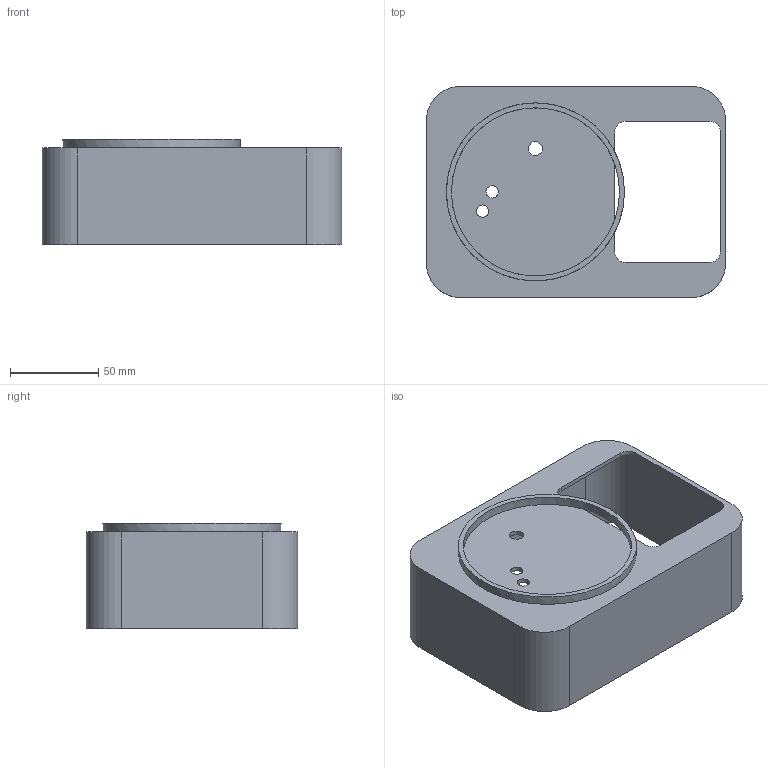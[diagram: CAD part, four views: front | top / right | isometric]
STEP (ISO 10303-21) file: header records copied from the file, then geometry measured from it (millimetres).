
FILE_DESCRIPTION(('Open CASCADE Model'),'2;1');
FILE_NAME('Open CASCADE Shape Model','2026-10-21T10:33:18',('Author'),( 'Open CASCADE'),'Open CASCADE STEP processor 7.9','Open CASCADE 7.9' ,'Unknown');
FILE_SCHEMA(('AUTOMOTIVE_DESIGN { 1 0 10303 214 1 1 1 1 }'));
Length unit declared in the file: millimetre
Products named in the file (1): Open CASCADE STEP translator 7.9 1
Bounding box: 170 x 120 x 60 mm (x, y, z)
Volume: 112807.4 mm3; surface area: 92312.3 mm2
Topology: 1 solids, 1 shells, 35 faces, 95 edges, 62 vertices
Faces by surface type: plane 18, cylinder 17
Full cylindrical faces by diameter (mm): 7 x2, 8 x1, 95.4 x1, 101 x1
Entity records: 2406 total; most frequent: CARTESIAN_POINT 483, DIRECTION 365, LINE 193, VECTOR 193, ORIENTED_EDGE 190, PCURVE 190, DEFINITIONAL_REPRESENTATION 190, EDGE_CURVE 95
